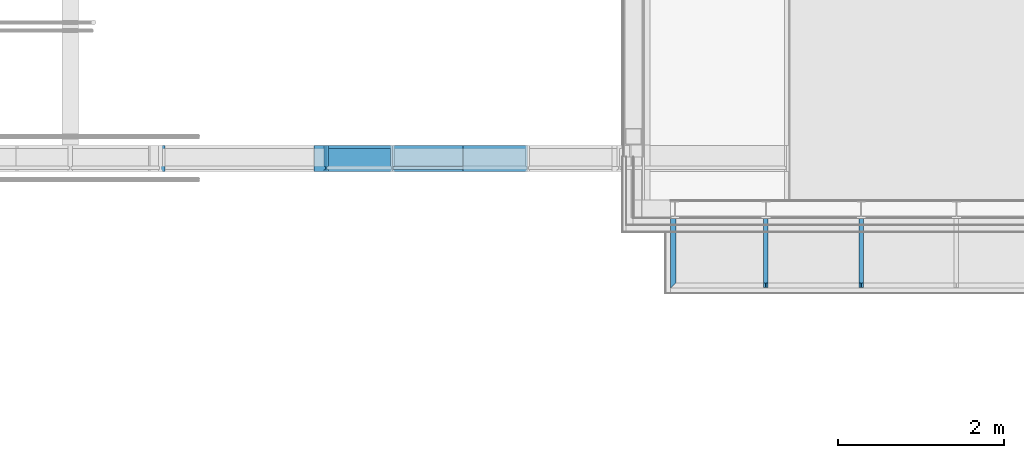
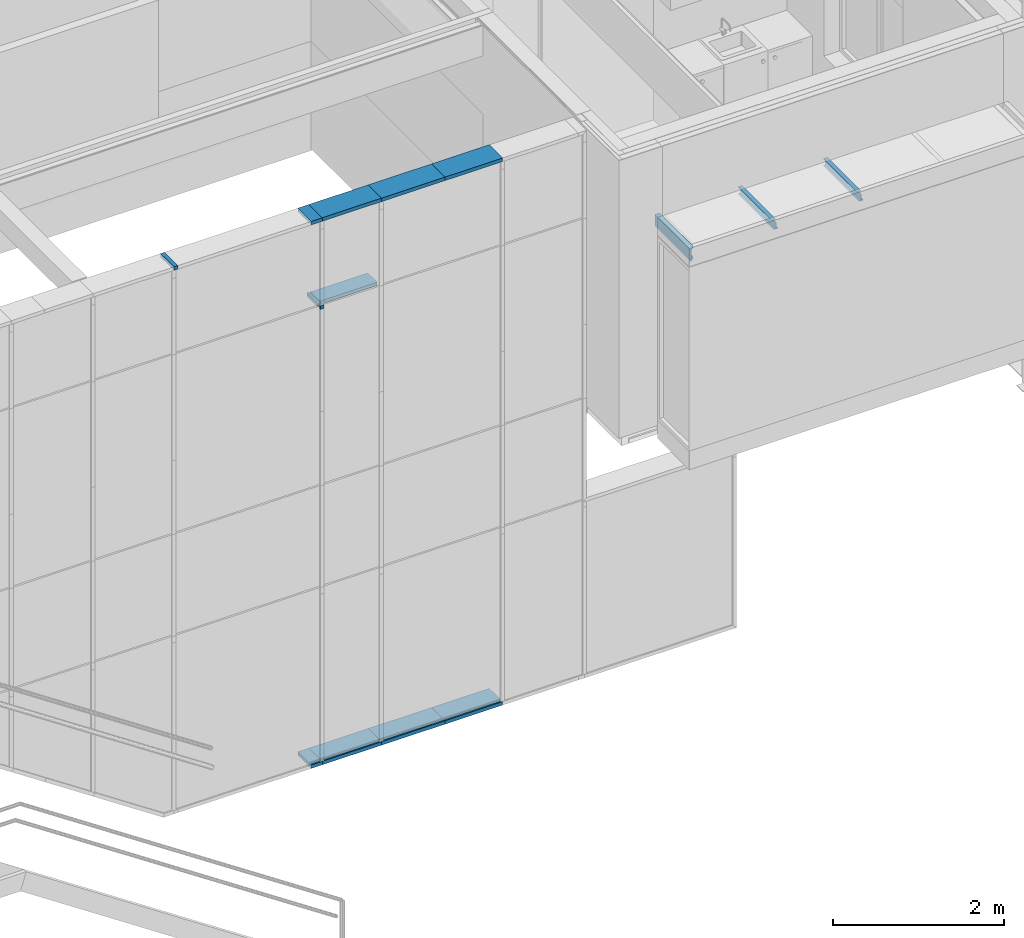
# One storey, part 31 of 137: 11 members, 3 beams, 1 element without a shape of its own.
"""IFC2X3 building model written with IfcOpenShell, lengths in millimetres."""

from ifc_helpers import new_model, entity, si_unit, converted_unit, derived_unit, money_unit, direction, frame, origin_with_axes, place, context, subcontext, project, spatial, faceted_brep, material, type_object, element, aggregate, save


model = new_model("IFC2X3")

# Units and contexts
model_context = context("Model", 3, precision=0.01, world=origin_with_axes(), true_north=direction((0.0, 1.0)))
body_context = subcontext(model_context, "Body", "Model", "MODEL_VIEW")
ifc_project = project(units=[si_unit("LENGTHUNIT", "METRE", prefix="MILLI"), si_unit("AREAUNIT", "SQUARE_METRE"), si_unit("VOLUMEUNIT", "CUBIC_METRE"), converted_unit("PLANEANGLEUNIT", "DEGREE", entity("IfcPlaneAngleMeasure", 0.0174532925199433), si_unit("PLANEANGLEUNIT", "RADIAN"), dimensions=[0, 0, 0, 0, 0, 0, 0]), money_unit("EUR"), converted_unit("TIMEUNIT", "Year", entity("IfcTimeMeasure", 31556926.0), si_unit("TIMEUNIT", "SECOND"), dimensions=[0, 0, 1, 0, 0, 0, 0]), si_unit("MASSUNIT", "GRAM", prefix="KILO"), si_unit("THERMODYNAMICTEMPERATUREUNIT", "DEGREE_CELSIUS"), si_unit("LUMINOUSINTENSITYUNIT", "LUMEN"), si_unit("ENERGYUNIT", "JOULE", prefix="MEGA"), derived_unit("THERMALCONDUCTANCEUNIT", [(si_unit("POWERUNIT", "WATT"), 1), (si_unit("LENGTHUNIT", "METRE"), -1), (si_unit("THERMODYNAMICTEMPERATUREUNIT", "KELVIN"), -1)]), derived_unit("SPECIFICHEATCAPACITYUNIT", [(si_unit("ENERGYUNIT", "JOULE"), 1), (si_unit("MASSUNIT", "GRAM", prefix="KILO"), -1), (si_unit("THERMODYNAMICTEMPERATUREUNIT", "KELVIN"), -1)]), derived_unit("MASSDENSITYUNIT", [(si_unit("MASSUNIT", "GRAM", prefix="KILO"), 1), (si_unit("VOLUMEUNIT", "CUBIC_METRE"), -1)])], contexts=[model_context])

# Site, building, storey
site_placement = place(None, origin_with_axes())
site = spatial("IfcSite", under=ifc_project, at=site_placement, Name="Site", CompositionType="ELEMENT")
building_placement = place(site_placement, origin_with_axes())
building = spatial("IfcBuilding", under=site, at=building_placement, Name="Naam gebouw", CompositionType="ELEMENT")
storey_placement = place(building_placement, frame((0.0, 0.0, 3960.0), z_axis=(0.0, 0.0, 1.0), x_axis=(1.0, 0.0, 0.0)))
storey = spatial("IfcBuildingStorey", under=building, at=storey_placement, Name="1e verdieping", CompositionType="ELEMENT", Elevation=3960.0)

# Beams
ifc_material_1 = material(Name="Metaal - Staal C")
beam_type_1 = type_object("IfcBeamType", Name="IPE100 55 x 100", PredefinedType="BEAM")
beam_1_placement = place(storey_placement, frame((26099.99903943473, 2750.000000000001, 2733.5), z_axis=(0.0, 0.0, 1.0), x_axis=(1.0, 0.0, 0.0)))
element("IfcBeam", 1, at=beam_1_placement, inside=storey, type_object=beam_type_1, material=ifc_material_1, Name="h METAAL_Regenwaterafvoer-x", ObjectType="BEAM", context=body_context, shape_type="Brep", body=[
    faceted_brep([(-27.49999999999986, 849.9999999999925, 49.99999999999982), (-27.49999999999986, 64.99999999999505, 49.99999999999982), (27.49999999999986, 64.99999999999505, 49.99999999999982), (27.49999999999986, 849.9999999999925, 49.99999999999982), (-27.49999999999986, 849.9999999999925, 44.29999999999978), (-27.49999999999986, 64.99999999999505, 44.29999999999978), (2.050000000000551, 64.99999999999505, 44.29999999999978), (27.49999999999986, 64.99999999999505, 44.29999999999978), (-2.050000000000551, 64.99999999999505, 44.29999999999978), (-2.050000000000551, 64.99999999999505, 39.49999999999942), (2.050000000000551, 64.99999999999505, 39.49999999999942), (27.49999999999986, 849.9999999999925, 44.29999999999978), (-2.050000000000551, 849.9999999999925, -44.29999999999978), (-2.050000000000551, 849.9999999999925, 44.29999999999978), (2.050000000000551, 849.9999999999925, 44.29999999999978), (2.050000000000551, 849.9999999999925, -44.29999999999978), (27.49999999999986, 849.9999999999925, -44.29999999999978), (27.49999999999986, 849.9999999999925, -49.99999999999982), (-27.49999999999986, 849.9999999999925, -49.99999999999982), (-27.49999999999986, 849.9999999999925, -44.29999999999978), (-2.050000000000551, 7.499999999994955, 39.49999999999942), (-2.050000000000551, 7.499999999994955, -44.29999999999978), (2.050000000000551, 7.499999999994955, 39.49999999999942), (2.050000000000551, 7.499999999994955, -44.29999999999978), (27.49999999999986, 7.499999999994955, -44.29999999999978), (27.49999999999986, 7.499999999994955, -49.99999999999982), (-27.49999999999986, 7.499999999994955, -49.99999999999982), (-27.49999999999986, 7.499999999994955, -44.29999999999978)], [[[0, 1, 2, 3]], [[4, 5, 1, 0]], [[6, 7, 2, 1, 5, 8, 9, 10]], [[3, 2, 7, 11]], [[12, 13, 4, 0, 3, 11, 14, 15, 16, 17, 18, 19]], [[13, 8, 5, 4]], [[11, 7, 6, 14]], [[20, 9, 8, 13, 12, 21]], [[20, 22, 10, 9]], [[10, 22, 23, 15, 14, 6]], [[15, 23, 24, 16]], [[16, 24, 25, 17]], [[17, 25, 26, 18]], [[18, 26, 27, 19]], [[19, 27, 21, 12]], [[26, 25, 24, 23, 22, 20, 21, 27]]]),
])
beam_2_placement = place(storey_placement, frame((27249.99903943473, 2750.000000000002, 2733.5), z_axis=(0.0, 0.0, 1.0), x_axis=(1.0, 0.0, 0.0)))
element("IfcBeam", 2, at=beam_2_placement, inside=storey, type_object=beam_type_1, material=ifc_material_1, Name="h METAAL_Regenwaterafvoer-x", ObjectType="BEAM", context=body_context, shape_type="Brep", body=[
    faceted_brep([(-27.49999999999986, 849.9999999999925, 49.99999999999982), (-27.49999999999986, 64.99999999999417, 49.99999999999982), (27.49999999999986, 64.99999999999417, 49.99999999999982), (27.49999999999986, 849.9999999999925, 49.99999999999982), (-27.49999999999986, 849.9999999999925, 44.29999999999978), (-27.49999999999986, 64.99999999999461, 44.29999999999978), (2.050000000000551, 64.99999999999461, 44.29999999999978), (27.49999999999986, 64.99999999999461, 44.29999999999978), (-2.050000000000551, 64.99999999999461, 44.29999999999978), (-2.050000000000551, 64.99999999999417, 39.49999999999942), (2.050000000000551, 64.99999999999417, 39.49999999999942), (27.49999999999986, 849.9999999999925, 44.29999999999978), (-2.050000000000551, 849.9999999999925, -44.29999999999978), (-2.050000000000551, 849.9999999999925, 44.29999999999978), (2.050000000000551, 849.9999999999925, 44.29999999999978), (2.050000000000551, 849.9999999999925, -44.29999999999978), (27.49999999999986, 849.9999999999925, -44.29999999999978), (27.49999999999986, 849.9999999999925, -49.99999999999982), (-27.49999999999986, 849.9999999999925, -49.99999999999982), (-27.49999999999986, 849.9999999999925, -44.29999999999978), (-2.050000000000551, 7.499999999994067, 39.49999999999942), (-2.050000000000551, 7.499999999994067, -44.29999999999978), (2.050000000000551, 7.499999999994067, 39.49999999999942), (2.050000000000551, 7.499999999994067, -44.29999999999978), (27.49999999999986, 7.499999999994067, -44.29999999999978), (27.49999999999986, 7.499999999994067, -49.99999999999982), (-27.49999999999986, 7.499999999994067, -49.99999999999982), (-27.49999999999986, 7.499999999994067, -44.29999999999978)], [[[0, 1, 2, 3]], [[4, 5, 1, 0]], [[6, 7, 2, 1, 5, 8, 9, 10]], [[3, 2, 7, 11]], [[12, 13, 4, 0, 3, 11, 14, 15, 16, 17, 18, 19]], [[13, 8, 5, 4]], [[11, 7, 6, 14]], [[20, 9, 8, 13, 12, 21]], [[20, 22, 10, 9]], [[10, 22, 23, 15, 14, 6]], [[15, 23, 24, 16]], [[16, 24, 25, 17]], [[17, 25, 26, 18]], [[18, 26, 27, 19]], [[19, 27, 21, 12]], [[26, 25, 24, 23, 22, 20, 21, 27]]]),
])
beam_type_2 = type_object("IfcBeamType", Name="UNP160 65 x 160", PredefinedType="BEAM")
beam_3_placement = place(storey_placement, frame((24949.99903943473, 2749.999999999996, 2703.499999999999), z_axis=(0.0, 0.0, 1.0), x_axis=(1.0, 0.0, 0.0)))
element("IfcBeam", 3, at=beam_3_placement, inside=storey, type_object=beam_type_2, material=ifc_material_1, Name="h METAAL_Regenwaterafvoer-x", ObjectType="BEAM", context=body_context, shape_type="Brep", body=[
    faceted_brep([(0.0, 0.0, -80.00000000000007), (0.0, 850.0000000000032, -80.00000000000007), (65.00000000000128, 850.0000000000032, -80.00000000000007), (65.00000000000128, 64.99999999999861, -80.00000000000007), (0.0, 0.0, 80.00000000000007), (0.0, 850.0000000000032, 80.00000000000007), (65.00000000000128, 850.0000000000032, 80.00000000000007), (65.00000000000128, 850.0000000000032, 69.49999999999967), (7.500000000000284, 850.0000000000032, 69.49999999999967), (7.500000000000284, 850.0000000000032, -69.49999999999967), (65.00000000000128, 850.0000000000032, -69.49999999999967), (65.00000000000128, 64.99999999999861, -69.49999999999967), (7.500000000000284, 7.49999999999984, -69.49999999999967), (7.500000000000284, 7.49999999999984, 69.49999999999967), (65.00000000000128, 64.99999999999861, 69.49999999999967), (65.00000000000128, 64.99999999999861, 80.00000000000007)], [[[0, 1, 2, 3]], [[4, 5, 1, 0]], [[2, 1, 5, 6, 7, 8, 9, 10]], [[3, 2, 10, 11]], [[4, 0, 3, 11, 12, 13, 14, 15]], [[15, 6, 5, 4]], [[14, 7, 6, 15]], [[13, 8, 7, 14]], [[12, 9, 8, 13]], [[11, 10, 9, 12]]]),
])

# Curtain wall, members
curtain_wall_type = type_object("IfcCurtainWallType", Name="Curtain Wall Type", PredefinedType="NOTDEFINED")
curtain_wall_placement = place(storey_placement, frame((8473.014787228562, 4364.43626274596, -3949.999921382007), z_axis=(0.0, 0.0, 1.0), x_axis=(1.0, 0.0, 0.0)))
curtain_wall = element("IfcCurtainWall", 4, at=curtain_wall_placement, inside=storey, type_object=curtain_wall_type, Name="21_Vliesgevel-x")
ifc_material_2 = material(Name="Metaal - Staal AFW")
member_type_1 = type_object("IfcMemberType", Name="Boundary Frame 50 x 313", PredefinedType="MULLION")
member_1_placement = place(curtain_wall_placement, frame((13116.98042652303, -161.4362627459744, 3.861439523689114e-05), z_axis=(1.0, 0.0, 0.0), x_axis=(0.0, 0.0, 1.0)))
member_1 = element("IfcMember", 5, at=member_1_placement, type_object=member_type_1, material=ifc_material_2, Name="h METAAL_Kader-x", ObjectType="MULLION", context=body_context, shape_type="Brep", body=[
    faceted_brep([(35.0, -17.4000000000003, 0.0), (35.0, 20.99999999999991, 0.0), (35.0, 20.99999999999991, 852.9612190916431), (35.0, -17.4000000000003, 852.9612190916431), (15.0, -17.4000000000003, 0.0), (15.0, 20.99999999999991, 0.0), (15.0, 20.99999999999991, 852.9612190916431), (15.0, -17.4000000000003, 852.9612190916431)], [[[0, 1, 2, 3]], [[0, 4, 5, 1]], [[1, 5, 6, 2]], [[3, 2, 6, 7]], [[4, 0, 3, 7]], [[5, 4, 7, 6]]]),
    faceted_brep([(15.0, -20.99999999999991, 0.0), (15.0, 20.99999999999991, 0.0), (15.0, 20.99999999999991, 852.9612190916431), (15.0, -20.99999999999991, 852.9612190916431), (0.0, -20.99999999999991, 0.0), (0.0, 20.99999999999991, 0.0), (0.0, 20.99999999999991, 852.9612190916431), (0.0, -20.99999999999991, 852.9612190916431)], [[[0, 1, 2, 3]], [[0, 4, 5, 1]], [[1, 5, 6, 2]], [[3, 2, 6, 7]], [[4, 0, 3, 7]], [[5, 4, 7, 6]]]),
    faceted_brep([(49.99999999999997, -272.0000000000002, 0.0), (50.0, -17.4000000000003, 0.0), (50.0, -17.4000000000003, 852.9612190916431), (49.99999999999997, -272.0000000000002, 852.9612190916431), (0.0, -272.0000000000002, 0.0), (0.0, -17.4000000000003, 0.0), (0.0, -17.4000000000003, 852.9612190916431), (0.0, -272.0000000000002, 852.9612190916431)], [[[0, 1, 2, 3]], [[0, 4, 5, 1]], [[1, 5, 6, 2]], [[3, 2, 6, 7]], [[4, 0, 3, 7]], [[5, 4, 7, 6]]]),
    faceted_brep([(0.0, 41.00000000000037, 0.0), (0.0, 20.99999999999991, 0.0), (0.0, 20.99999999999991, 852.9612190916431), (0.0, 41.00000000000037, 852.9612190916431), (50.00000000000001, 41.00000000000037, 0.0), (50.0, 20.99999999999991, 0.0), (50.0, 20.99999999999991, 852.9612190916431), (50.00000000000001, 41.00000000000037, 852.9612190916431)], [[[0, 1, 2, 3]], [[0, 4, 5, 1]], [[1, 5, 6, 2]], [[3, 2, 6, 7]], [[4, 0, 3, 7]], [[5, 4, 7, 6]]]),
])
member_2_placement = place(curtain_wall_placement, frame((12316.98041567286, -161.4362627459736, 3.861439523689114e-05), z_axis=(1.0, 0.0, 0.0), x_axis=(0.0, 0.0, 1.0)))
member_2 = element("IfcMember", 6, at=member_2_placement, type_object=member_type_1, material=ifc_material_2, Name="h METAAL_Kader-x", ObjectType="MULLION", context=body_context, shape_type="Brep", body=[
    faceted_brep([(35.0, -17.4000000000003, 0.0), (35.0, 20.99999999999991, 0.0), (35.0, 20.99999999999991, 800.0000108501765), (35.0, -17.4000000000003, 800.0000108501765), (15.0, -17.4000000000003, 0.0), (15.0, 20.99999999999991, 0.0), (15.0, 20.99999999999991, 800.0000108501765), (15.0, -17.4000000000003, 800.0000108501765)], [[[0, 1, 2, 3]], [[0, 4, 5, 1]], [[1, 5, 6, 2]], [[3, 2, 6, 7]], [[4, 0, 3, 7]], [[5, 4, 7, 6]]]),
    faceted_brep([(15.0, -20.99999999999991, 0.0), (15.0, 20.99999999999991, 0.0), (15.0, 20.99999999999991, 800.0000108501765), (15.0, -20.99999999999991, 800.0000108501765), (0.0, -20.99999999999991, 0.0), (0.0, 20.99999999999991, 0.0), (0.0, 20.99999999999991, 800.0000108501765), (0.0, -20.99999999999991, 800.0000108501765)], [[[0, 1, 2, 3]], [[0, 4, 5, 1]], [[1, 5, 6, 2]], [[3, 2, 6, 7]], [[4, 0, 3, 7]], [[5, 4, 7, 6]]]),
    faceted_brep([(49.99999999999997, -272.0000000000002, 0.0), (50.0, -17.4000000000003, 0.0), (50.0, -17.4000000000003, 800.0000108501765), (49.99999999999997, -272.0000000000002, 800.0000108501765), (0.0, -272.0000000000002, 0.0), (0.0, -17.4000000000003, 0.0), (0.0, -17.4000000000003, 800.0000108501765), (0.0, -272.0000000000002, 800.0000108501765)], [[[0, 1, 2, 3]], [[0, 4, 5, 1]], [[1, 5, 6, 2]], [[3, 2, 6, 7]], [[4, 0, 3, 7]], [[5, 4, 7, 6]]]),
    faceted_brep([(0.0, 41.00000000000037, 0.0), (0.0, 20.99999999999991, 0.0), (0.0, 20.99999999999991, 800.0000108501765), (0.0, 41.00000000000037, 800.0000108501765), (50.00000000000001, 41.00000000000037, 0.0), (50.0, 20.99999999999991, 0.0), (50.0, 20.99999999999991, 800.0000108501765), (50.00000000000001, 41.00000000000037, 800.0000108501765)], [[[0, 1, 2, 3]], [[0, 4, 5, 1]], [[1, 5, 6, 2]], [[3, 2, 6, 7]], [[4, 0, 3, 7]], [[5, 4, 7, 6]]]),
])
member_3_placement = place(curtain_wall_placement, frame((12169.94164561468, -161.4362627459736, 3.861439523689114e-05), z_axis=(1.0, 0.0, 0.0), x_axis=(0.0, 0.0, 1.0)))
member_3 = element("IfcMember", 7, at=member_3_placement, type_object=member_type_1, material=ifc_material_2, Name="h METAAL_Kader-x", ObjectType="MULLION", context=body_context, shape_type="Brep", body=[
    faceted_brep([(35.0, -17.4000000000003, 0.0), (35.0, 20.99999999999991, 0.0), (35.0, 20.99999999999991, 147.0387700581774), (35.0, -17.4000000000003, 147.0387700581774), (15.0, -17.4000000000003, 0.0), (15.0, 20.99999999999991, 0.0), (15.0, 20.99999999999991, 147.0387700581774), (15.0, -17.4000000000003, 147.0387700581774)], [[[0, 1, 2, 3]], [[0, 4, 5, 1]], [[1, 5, 6, 2]], [[3, 2, 6, 7]], [[4, 0, 3, 7]], [[5, 4, 7, 6]]]),
    faceted_brep([(15.0, -20.99999999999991, 0.0), (15.0, 20.99999999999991, 0.0), (15.0, 20.99999999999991, 147.0387700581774), (15.0, -20.99999999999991, 147.0387700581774), (0.0, -20.99999999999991, 0.0), (0.0, 20.99999999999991, 0.0), (0.0, 20.99999999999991, 147.0387700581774), (0.0, -20.99999999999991, 147.0387700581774)], [[[0, 1, 2, 3]], [[0, 4, 5, 1]], [[1, 5, 6, 2]], [[3, 2, 6, 7]], [[4, 0, 3, 7]], [[5, 4, 7, 6]]]),
    faceted_brep([(49.99999999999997, -272.0000000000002, 0.0), (50.0, -17.4000000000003, 0.0), (50.0, -17.4000000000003, 147.0387700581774), (49.99999999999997, -272.0000000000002, 147.0387700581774), (0.0, -272.0000000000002, 0.0), (0.0, -17.4000000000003, 0.0), (0.0, -17.4000000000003, 147.0387700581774), (0.0, -272.0000000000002, 147.0387700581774)], [[[0, 1, 2, 3]], [[0, 4, 5, 1]], [[1, 5, 6, 2]], [[3, 2, 6, 7]], [[4, 0, 3, 7]], [[5, 4, 7, 6]]]),
    faceted_brep([(0.0, 41.00000000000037, 0.0), (0.0, 20.99999999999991, 0.0), (0.0, 20.99999999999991, 147.0387700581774), (0.0, 41.00000000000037, 147.0387700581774), (50.00000000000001, 41.00000000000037, 0.0), (50.0, 20.99999999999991, 0.0), (50.0, 20.99999999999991, 147.0387700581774), (50.00000000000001, 41.00000000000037, 147.0387700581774)], [[[0, 1, 2, 3]], [[0, 4, 5, 1]], [[1, 5, 6, 2]], [[3, 2, 6, 7]], [[4, 0, 3, 7]], [[5, 4, 7, 6]]]),
])
member_4_placement = place(curtain_wall_placement, frame((13969.94164561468, -161.4362627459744, 3.861439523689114e-05), z_axis=(1.0, 0.0, 0.0), x_axis=(0.0, 0.0, 1.0)))
member_4 = element("IfcMember", 8, at=member_4_placement, type_object=member_type_1, material=ifc_material_2, Name="h METAAL_Kader-x", ObjectType="MULLION", context=body_context, shape_type="Brep", body=[
    faceted_brep([(35.0, -17.4000000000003, 0.0), (35.0, 20.99999999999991, 0.0), (35.0, 20.99999999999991, 779.9801056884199), (35.0, -17.4000000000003, 779.9801056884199), (15.0, -17.4000000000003, 0.0), (15.0, 20.99999999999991, 0.0), (15.0, 20.99999999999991, 779.9801056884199), (15.0, -17.4000000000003, 779.9801056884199)], [[[0, 1, 2, 3]], [[0, 4, 5, 1]], [[1, 5, 6, 2]], [[3, 2, 6, 7]], [[4, 0, 3, 7]], [[5, 4, 7, 6]]]),
    faceted_brep([(15.0, -20.99999999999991, 0.0), (15.0, 20.99999999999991, 0.0), (15.0, 20.99999999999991, 779.9801056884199), (15.0, -20.99999999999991, 779.9801056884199), (0.0, -20.99999999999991, 0.0), (0.0, 20.99999999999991, 0.0), (0.0, 20.99999999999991, 779.9801056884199), (0.0, -20.99999999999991, 779.9801056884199)], [[[0, 1, 2, 3]], [[0, 4, 5, 1]], [[1, 5, 6, 2]], [[3, 2, 6, 7]], [[4, 0, 3, 7]], [[5, 4, 7, 6]]]),
    faceted_brep([(49.99999999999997, -272.0000000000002, 0.0), (50.0, -17.4000000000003, 0.0), (50.0, -17.4000000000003, 779.9801056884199), (49.99999999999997, -272.0000000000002, 779.9801056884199), (0.0, -272.0000000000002, 0.0), (0.0, -17.4000000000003, 0.0), (0.0, -17.4000000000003, 779.9801056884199), (0.0, -272.0000000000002, 779.9801056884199)], [[[0, 1, 2, 3]], [[0, 4, 5, 1]], [[1, 5, 6, 2]], [[3, 2, 6, 7]], [[4, 0, 3, 7]], [[5, 4, 7, 6]]]),
    faceted_brep([(0.0, 41.00000000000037, 0.0), (0.0, 20.99999999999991, 0.0), (0.0, 20.99999999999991, 779.9801056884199), (0.0, 41.00000000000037, 779.9801056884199), (50.00000000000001, 41.00000000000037, 0.0), (50.0, 20.99999999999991, 0.0), (50.0, 20.99999999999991, 779.9801056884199), (50.00000000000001, 41.00000000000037, 779.9801056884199)], [[[0, 1, 2, 3]], [[0, 4, 5, 1]], [[1, 5, 6, 2]], [[3, 2, 6, 7]], [[4, 0, 3, 7]], [[5, 4, 7, 6]]]),
])
member_5_placement = place(curtain_wall_placement, frame((13116.98041432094, -161.4362627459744, 7800.000020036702), z_axis=(1.0, 0.0, 0.0), x_axis=(0.0, 0.0, 1.0)))
member_5 = element("IfcMember", 9, at=member_5_placement, type_object=member_type_1, material=ifc_material_2, Name="h METAAL_Kader-x", ObjectType="MULLION", context=body_context, shape_type="Brep", body=[
    faceted_brep([(-35.00000000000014, -17.4000000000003, 0.0), (-35.00000000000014, -17.4000000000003, 852.9612312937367), (-35.00000000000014, 20.99999999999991, 852.9612312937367), (-35.00000000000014, 20.99999999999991, 0.0), (-14.99999999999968, -17.4000000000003, 0.0), (-14.99999999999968, -17.4000000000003, 852.9612312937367), (-14.99999999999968, 20.99999999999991, 852.9612312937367), (-14.99999999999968, 20.99999999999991, 0.0)], [[[0, 1, 2, 3]], [[4, 5, 1, 0]], [[1, 5, 6, 2]], [[3, 2, 6, 7]], [[0, 3, 7, 4]], [[7, 6, 5, 4]]]),
    faceted_brep([(-14.99999999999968, -20.99999999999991, 0.0), (-14.99999999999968, -20.99999999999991, 852.9612312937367), (-14.99999999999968, 20.99999999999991, 852.9612312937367), (-14.99999999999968, 20.99999999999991, 0.0), (0.0, -20.99999999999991, 0.0), (0.0, -20.99999999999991, 852.9612312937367), (0.0, 20.99999999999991, 852.9612312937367), (0.0, 20.99999999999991, 0.0)], [[[0, 1, 2, 3]], [[4, 5, 1, 0]], [[1, 5, 6, 2]], [[3, 2, 6, 7]], [[0, 3, 7, 4]], [[7, 6, 5, 4]]]),
    faceted_brep([(-49.99999999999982, -272.0000000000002, 0.0), (-49.99999999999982, -272.0000000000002, 852.9612312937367), (-49.99999999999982, -17.4000000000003, 852.9612312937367), (-49.99999999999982, -17.4000000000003, 0.0), (0.0, -272.0000000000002, 0.0), (0.0, -272.0000000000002, 852.9612312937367), (0.0, -17.4000000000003, 852.9612312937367), (0.0, -17.4000000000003, 0.0)], [[[0, 1, 2, 3]], [[4, 5, 1, 0]], [[1, 5, 6, 2]], [[3, 2, 6, 7]], [[0, 3, 7, 4]], [[7, 6, 5, 4]]]),
    faceted_brep([(0.0, 41.00000000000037, 0.0), (0.0, 41.00000000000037, 852.9612312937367), (0.0, 20.99999999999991, 852.9612312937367), (0.0, 20.99999999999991, 0.0), (-49.99999999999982, 41.00000000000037, 0.0), (-49.99999999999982, 41.00000000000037, 852.9612312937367), (-49.99999999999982, 20.99999999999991, 852.9612312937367), (-49.99999999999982, 20.99999999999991, 0.0)], [[[0, 1, 2, 3]], [[4, 5, 1, 0]], [[1, 5, 6, 2]], [[3, 2, 6, 7]], [[0, 3, 7, 4]], [[7, 6, 5, 4]]]),
])
member_6_placement = place(curtain_wall_placement, frame((10316.9803786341, -161.4362627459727, 7800.000020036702), z_axis=(1.0, 0.0, 0.0), x_axis=(0.0, 0.0, 1.0)))
member_6 = element("IfcMember", 10, at=member_6_placement, type_object=member_type_1, material=ifc_material_2, Name="h METAAL_Kader-x", ObjectType="MULLION", context=body_context, shape_type="Brep", body=[
    faceted_brep([(-35.00000000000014, -17.4000000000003, 0.0), (-35.00000000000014, -17.4000000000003, 52.96126698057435), (-35.00000000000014, 20.99999999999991, 52.96126698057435), (-35.00000000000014, 20.99999999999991, 0.0), (-14.99999999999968, -17.4000000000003, 0.0), (-14.99999999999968, -17.4000000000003, 52.96126698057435), (-14.99999999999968, 20.99999999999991, 52.96126698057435), (-14.99999999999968, 20.99999999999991, 0.0)], [[[0, 1, 2, 3]], [[4, 5, 1, 0]], [[1, 5, 6, 2]], [[3, 2, 6, 7]], [[0, 3, 7, 4]], [[7, 6, 5, 4]]]),
    faceted_brep([(-14.99999999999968, -20.99999999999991, 0.0), (-14.99999999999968, -20.99999999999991, 52.96126698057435), (-14.99999999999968, 20.99999999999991, 52.96126698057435), (-14.99999999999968, 20.99999999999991, 0.0), (0.0, -20.99999999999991, 0.0), (0.0, -20.99999999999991, 52.96126698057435), (0.0, 20.99999999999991, 52.96126698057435), (0.0, 20.99999999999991, 0.0)], [[[0, 1, 2, 3]], [[4, 5, 1, 0]], [[1, 5, 6, 2]], [[3, 2, 6, 7]], [[0, 3, 7, 4]], [[7, 6, 5, 4]]]),
    faceted_brep([(-49.99999999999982, -272.0000000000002, 0.0), (-49.99999999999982, -272.0000000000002, 52.96126698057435), (-49.99999999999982, -17.4000000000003, 52.96126698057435), (-49.99999999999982, -17.4000000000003, 0.0), (0.0, -272.0000000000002, 0.0), (0.0, -272.0000000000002, 52.96126698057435), (0.0, -17.4000000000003, 52.96126698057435), (0.0, -17.4000000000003, 0.0)], [[[0, 1, 2, 3]], [[4, 5, 1, 0]], [[1, 5, 6, 2]], [[3, 2, 6, 7]], [[0, 3, 7, 4]], [[7, 6, 5, 4]]]),
    faceted_brep([(0.0, 41.00000000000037, 0.0), (0.0, 41.00000000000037, 52.96126698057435), (0.0, 20.99999999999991, 52.96126698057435), (0.0, 20.99999999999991, 0.0), (-49.99999999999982, 41.00000000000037, 0.0), (-49.99999999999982, 41.00000000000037, 52.96126698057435), (-49.99999999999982, 20.99999999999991, 52.96126698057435), (-49.99999999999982, 20.99999999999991, 0.0)], [[[0, 1, 2, 3]], [[4, 5, 1, 0]], [[1, 5, 6, 2]], [[3, 2, 6, 7]], [[0, 3, 7, 4]], [[7, 6, 5, 4]]]),
])
member_7_placement = place(curtain_wall_placement, frame((13969.94164561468, -161.4362627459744, 7800.000020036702), z_axis=(1.0, 0.0, 0.0), x_axis=(0.0, 0.0, 1.0)))
member_7 = element("IfcMember", 11, at=member_7_placement, type_object=member_type_1, material=ifc_material_2, Name="h METAAL_Kader-x", ObjectType="MULLION", context=body_context, shape_type="Brep", body=[
    faceted_brep([(-35.00000000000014, -17.4000000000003, 0.0), (-35.00000000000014, -17.4000000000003, 779.9801018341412), (-35.00000000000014, 20.99999999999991, 779.9801018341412), (-35.00000000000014, 20.99999999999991, 0.0), (-14.99999999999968, -17.4000000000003, 0.0), (-14.99999999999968, -17.4000000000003, 779.9801018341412), (-14.99999999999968, 20.99999999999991, 779.9801018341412), (-14.99999999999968, 20.99999999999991, 0.0)], [[[0, 1, 2, 3]], [[4, 5, 1, 0]], [[1, 5, 6, 2]], [[3, 2, 6, 7]], [[0, 3, 7, 4]], [[7, 6, 5, 4]]]),
    faceted_brep([(-14.99999999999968, -20.99999999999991, 0.0), (-14.99999999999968, -20.99999999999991, 779.9801018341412), (-14.99999999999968, 20.99999999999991, 779.9801018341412), (-14.99999999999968, 20.99999999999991, 0.0), (0.0, -20.99999999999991, 0.0), (0.0, -20.99999999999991, 779.9801018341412), (0.0, 20.99999999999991, 779.9801018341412), (0.0, 20.99999999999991, 0.0)], [[[0, 1, 2, 3]], [[4, 5, 1, 0]], [[1, 5, 6, 2]], [[3, 2, 6, 7]], [[0, 3, 7, 4]], [[7, 6, 5, 4]]]),
    faceted_brep([(-49.99999999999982, -272.0000000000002, 0.0), (-49.99999999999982, -272.0000000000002, 779.9801018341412), (-49.99999999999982, -17.4000000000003, 779.9801018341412), (-49.99999999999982, -17.4000000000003, 0.0), (0.0, -272.0000000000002, 0.0), (0.0, -272.0000000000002, 779.9801018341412), (0.0, -17.4000000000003, 779.9801018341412), (0.0, -17.4000000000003, 0.0)], [[[0, 1, 2, 3]], [[4, 5, 1, 0]], [[1, 5, 6, 2]], [[3, 2, 6, 7]], [[0, 3, 7, 4]], [[7, 6, 5, 4]]]),
    faceted_brep([(0.0, 41.00000000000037, 0.0), (0.0, 41.00000000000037, 779.9801018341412), (0.0, 20.99999999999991, 779.9801018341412), (0.0, 20.99999999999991, 0.0), (-49.99999999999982, 41.00000000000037, 0.0), (-49.99999999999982, 41.00000000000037, 779.9801018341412), (-49.99999999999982, 20.99999999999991, 779.9801018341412), (-49.99999999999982, 20.99999999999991, 0.0)], [[[0, 1, 2, 3]], [[4, 5, 1, 0]], [[1, 5, 6, 2]], [[3, 2, 6, 7]], [[0, 3, 7, 4]], [[7, 6, 5, 4]]]),
])
member_8_placement = place(curtain_wall_placement, frame((12316.98041549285, -161.4362627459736, 7800.000020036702), z_axis=(1.0, 0.0, 0.0), x_axis=(0.0, 0.0, 1.0)))
member_8 = element("IfcMember", 12, at=member_8_placement, type_object=member_type_1, material=ifc_material_2, Name="h METAAL_Kader-x", ObjectType="MULLION", context=body_context, shape_type="Brep", body=[
    faceted_brep([(-35.00000000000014, -17.4000000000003, 0.0), (-35.00000000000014, -17.4000000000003, 799.999998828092), (-35.00000000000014, 20.99999999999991, 799.999998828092), (-35.00000000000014, 20.99999999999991, 0.0), (-14.99999999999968, -17.4000000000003, 0.0), (-14.99999999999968, -17.4000000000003, 799.999998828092), (-14.99999999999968, 20.99999999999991, 799.999998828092), (-14.99999999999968, 20.99999999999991, 0.0)], [[[0, 1, 2, 3]], [[4, 5, 1, 0]], [[1, 5, 6, 2]], [[3, 2, 6, 7]], [[0, 3, 7, 4]], [[7, 6, 5, 4]]]),
    faceted_brep([(-14.99999999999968, -20.99999999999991, 0.0), (-14.99999999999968, -20.99999999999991, 799.999998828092), (-14.99999999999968, 20.99999999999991, 799.999998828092), (-14.99999999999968, 20.99999999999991, 0.0), (0.0, -20.99999999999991, 0.0), (0.0, -20.99999999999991, 799.999998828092), (0.0, 20.99999999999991, 799.999998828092), (0.0, 20.99999999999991, 0.0)], [[[0, 1, 2, 3]], [[4, 5, 1, 0]], [[1, 5, 6, 2]], [[3, 2, 6, 7]], [[0, 3, 7, 4]], [[7, 6, 5, 4]]]),
    faceted_brep([(-49.99999999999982, -272.0000000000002, 0.0), (-49.99999999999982, -272.0000000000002, 799.999998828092), (-49.99999999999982, -17.4000000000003, 799.999998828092), (-49.99999999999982, -17.4000000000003, 0.0), (0.0, -272.0000000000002, 0.0), (0.0, -272.0000000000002, 799.999998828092), (0.0, -17.4000000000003, 799.999998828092), (0.0, -17.4000000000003, 0.0)], [[[0, 1, 2, 3]], [[4, 5, 1, 0]], [[1, 5, 6, 2]], [[3, 2, 6, 7]], [[0, 3, 7, 4]], [[7, 6, 5, 4]]]),
    faceted_brep([(0.0, 41.00000000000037, 0.0), (0.0, 41.00000000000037, 799.999998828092), (0.0, 20.99999999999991, 799.999998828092), (0.0, 20.99999999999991, 0.0), (-49.99999999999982, 41.00000000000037, 0.0), (-49.99999999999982, 41.00000000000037, 799.999998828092), (-49.99999999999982, 20.99999999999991, 799.999998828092), (-49.99999999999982, 20.99999999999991, 0.0)], [[[0, 1, 2, 3]], [[4, 5, 1, 0]], [[1, 5, 6, 2]], [[3, 2, 6, 7]], [[0, 3, 7, 4]], [[7, 6, 5, 4]]]),
])
member_9_placement = place(curtain_wall_placement, frame((12169.94164561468, -161.4362627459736, 7800.000020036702), z_axis=(1.0, 0.0, 0.0), x_axis=(0.0, 0.0, 1.0)))
member_9 = element("IfcMember", 13, at=member_9_placement, type_object=member_type_1, material=ifc_material_2, Name="h METAAL_Kader-x", ObjectType="MULLION", context=body_context, shape_type="Brep", body=[
    faceted_brep([(-35.00000000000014, -17.4000000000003, 0.0), (-35.00000000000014, -17.4000000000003, 147.0387698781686), (-35.00000000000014, 20.99999999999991, 147.0387698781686), (-35.00000000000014, 20.99999999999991, 0.0), (-14.99999999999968, -17.4000000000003, 0.0), (-14.99999999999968, -17.4000000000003, 147.0387698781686), (-14.99999999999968, 20.99999999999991, 147.0387698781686), (-14.99999999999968, 20.99999999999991, 0.0)], [[[0, 1, 2, 3]], [[4, 5, 1, 0]], [[1, 5, 6, 2]], [[3, 2, 6, 7]], [[0, 3, 7, 4]], [[7, 6, 5, 4]]]),
    faceted_brep([(-14.99999999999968, -20.99999999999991, 0.0), (-14.99999999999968, -20.99999999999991, 147.0387698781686), (-14.99999999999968, 20.99999999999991, 147.0387698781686), (-14.99999999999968, 20.99999999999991, 0.0), (0.0, -20.99999999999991, 0.0), (0.0, -20.99999999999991, 147.0387698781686), (0.0, 20.99999999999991, 147.0387698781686), (0.0, 20.99999999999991, 0.0)], [[[0, 1, 2, 3]], [[4, 5, 1, 0]], [[1, 5, 6, 2]], [[3, 2, 6, 7]], [[0, 3, 7, 4]], [[7, 6, 5, 4]]]),
    faceted_brep([(-49.99999999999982, -272.0000000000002, 0.0), (-49.99999999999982, -272.0000000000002, 147.0387698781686), (-49.99999999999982, -17.4000000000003, 147.0387698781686), (-49.99999999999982, -17.4000000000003, 0.0), (0.0, -272.0000000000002, 0.0), (0.0, -272.0000000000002, 147.0387698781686), (0.0, -17.4000000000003, 147.0387698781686), (0.0, -17.4000000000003, 0.0)], [[[0, 1, 2, 3]], [[4, 5, 1, 0]], [[1, 5, 6, 2]], [[3, 2, 6, 7]], [[0, 3, 7, 4]], [[7, 6, 5, 4]]]),
    faceted_brep([(0.0, 41.00000000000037, 0.0), (0.0, 41.00000000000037, 147.0387698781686), (0.0, 20.99999999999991, 147.0387698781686), (0.0, 20.99999999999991, 0.0), (-49.99999999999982, 41.00000000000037, 0.0), (-49.99999999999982, 41.00000000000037, 147.0387698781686), (-49.99999999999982, 20.99999999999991, 147.0387698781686), (-49.99999999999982, 20.99999999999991, 0.0)], [[[0, 1, 2, 3]], [[4, 5, 1, 0]], [[1, 5, 6, 2]], [[3, 2, 6, 7]], [[0, 3, 7, 4]], [[7, 6, 5, 4]]]),
])
member_type_2 = type_object("IfcMemberType", Name="Transom Frame 50 x 258", PredefinedType="MULLION")
member_10_placement = place(curtain_wall_placement, frame((12319.46113337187, -161.4362627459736, 6549.999915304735), z_axis=(1.0, 0.0, 0.0), x_axis=(0.0, 0.0, 1.0)))
member_10 = element("IfcMember", 14, at=member_10_placement, type_object=member_type_2, material=ifc_material_2, Name="h METAAL_Kader-x", ObjectType="MULLION", context=body_context, shape_type="Brep", body=[
    faceted_brep([(25.00000000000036, -237.0000000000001, 0.0), (25.00000000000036, -17.4000000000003, 0.0), (25.00000000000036, -17.4000000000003, 772.5192997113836), (25.00000000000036, -237.0000000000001, 772.5192996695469), (-25.00000000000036, -237.0000000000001, 0.0), (-25.00000000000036, -17.4000000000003, 0.0), (-25.00000000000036, -17.4000000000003, 772.5192997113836), (-25.00000000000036, -237.0000000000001, 772.5192996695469)], [[[0, 1, 2, 3]], [[0, 4, 5, 1]], [[1, 5, 6, 2]], [[3, 2, 6, 7]], [[4, 0, 3, 7]], [[5, 4, 7, 6]]]),
])
member_type_3 = type_object("IfcMemberType", Name="Mullion Frame 50 x 313", PredefinedType="MULLION")
member_11_placement = place(curtain_wall_placement, frame((12316.98041549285, -161.4362627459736, 6499.712590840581), z_axis=(0.0, 0.0, 1.0), x_axis=(-1.0, 0.0, 0.0)))
member_11 = element("IfcMember", 15, at=member_11_placement, type_object=member_type_3, material=ifc_material_2, Name="h METAAL_Kader-x", ObjectType="MULLION", context=body_context, shape_type="Brep", body=[
    faceted_brep([(10.00000000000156, -17.4000000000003, 0.0), (10.00000000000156, 20.99999999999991, 0.0), (9.99999999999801, 20.99999999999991, 50.28732446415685), (9.99999999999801, -17.4000000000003, 50.28732446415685), (-10.00000000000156, -17.4000000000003, 0.0), (-10.00000000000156, 20.99999999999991, 0.0), (-10.00000000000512, 20.99999999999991, 50.28732446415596), (-10.00000000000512, -17.4000000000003, 50.28732446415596)], [[[0, 1, 2, 3]], [[0, 4, 5, 1]], [[1, 5, 6, 2]], [[3, 2, 6, 7]], [[4, 0, 3, 7]], [[5, 4, 7, 6]]]),
    faceted_brep([(24.99999999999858, -272.0000000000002, 0.0), (24.99999999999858, -17.4000000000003, 0.0), (24.99999999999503, -17.4000000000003, 50.28732446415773), (24.99999999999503, -272.0000000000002, 50.28732446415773), (-24.99999999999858, -272.0000000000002, 0.0), (-24.99999999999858, -17.4000000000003, 0.0), (-25.00000000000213, -17.4000000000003, 50.28732446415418), (-25.00000000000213, -272.0000000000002, 50.28732446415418)], [[[0, 1, 2, 3]], [[0, 4, 5, 1]], [[1, 5, 6, 2]], [[3, 2, 6, 7]], [[4, 0, 3, 7]], [[5, 4, 7, 6]]]),
    faceted_brep([(-24.99999999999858, 40.49999999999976, 0.0), (-24.99999999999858, 20.99999999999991, 0.0), (-25.00000000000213, 20.99999999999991, 50.28732446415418), (-25.00000000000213, 40.49999999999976, 50.28732446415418), (24.99999999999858, 40.49999999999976, 0.0), (24.99999999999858, 20.99999999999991, 0.0), (24.99999999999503, 20.99999999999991, 50.28732446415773), (24.99999999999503, 40.49999999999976, 50.28732446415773)], [[[0, 1, 2, 3]], [[0, 4, 5, 1]], [[1, 5, 6, 2]], [[3, 2, 6, 7]], [[4, 0, 3, 7]], [[5, 4, 7, 6]]]),
])
aggregate(curtain_wall, [member_1, member_2, member_3, member_4, member_5, member_6, member_7, member_8, member_10, member_11, member_9])

save(model, "model.ifc")
